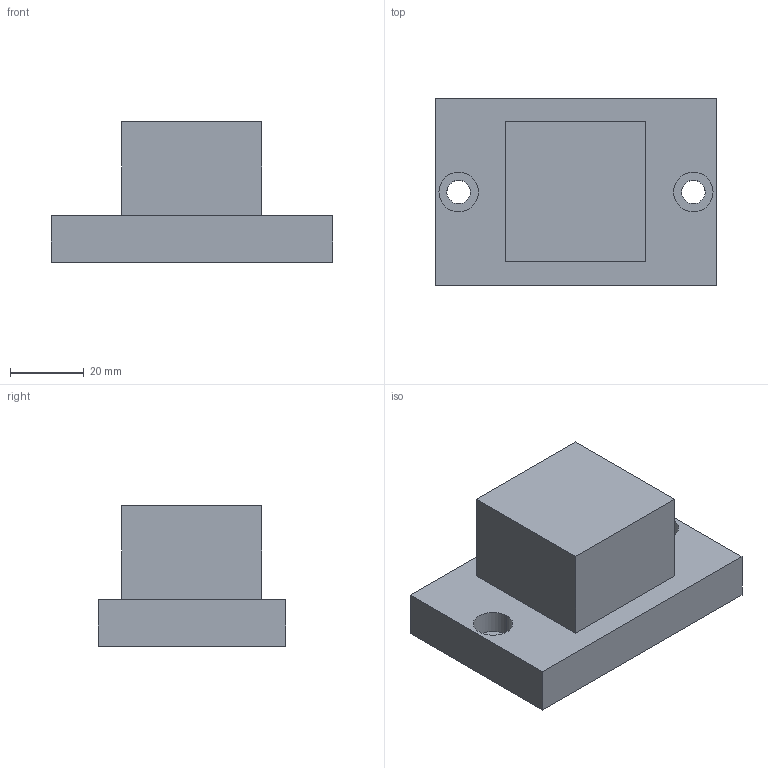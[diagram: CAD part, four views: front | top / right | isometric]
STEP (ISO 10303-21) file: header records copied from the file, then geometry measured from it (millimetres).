
FILE_DESCRIPTION (( 'STEP AP203' ), '1' );
FILE_NAME ('269-18-110.STEP', '2020-03-02T21:46:17', ( '' ), ( '' ), 'SwSTEP 2.0', 'SolidWorks 2017', '' );
FILE_SCHEMA (( 'CONFIG_CONTROL_DESIGN' ));
Length unit declared in the file: inch
Products named in the file (1): 269-18-110
Bounding box: 76.2 x 50.8 x 38.1 mm (x, y, z)
Volume: 83243.8 mm3; surface area: 16011.5 mm2
Topology: 1 solids, 1 shells, 24 faces, 54 edges, 36 vertices
Faces by surface type: plane 14, cylinder 10
Entity records: 765 total; most frequent: DIRECTION 124, CARTESIAN_POINT 115, ORIENTED_EDGE 108, EDGE_CURVE 54, AXIS2_PLACEMENT_3D 45, VERTEX_POINT 36, LINE 34, VECTOR 34
